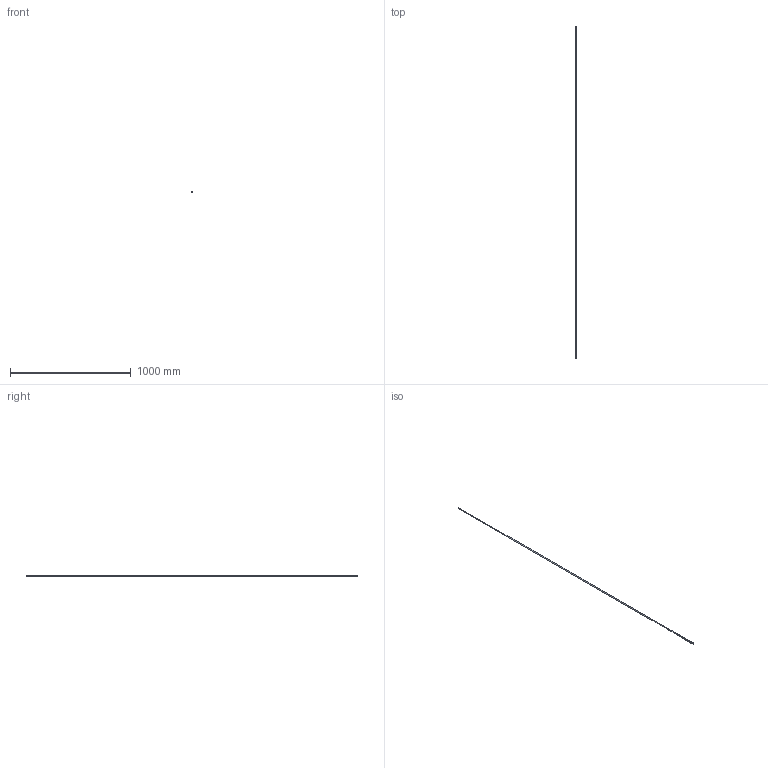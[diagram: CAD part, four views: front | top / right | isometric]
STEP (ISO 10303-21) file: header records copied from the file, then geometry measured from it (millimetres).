
FILE_DESCRIPTION (( 'STEP AP203' ), '1' );
FILE_NAME ('CAYLAR NMR Probe - Model RC.STEP', '2021-08-10T13:47:17', ( '' ), ( '' ), 'SwSTEP 2.0', 'SolidWorks 2016', '' );
FILE_SCHEMA (( 'CONFIG_CONTROL_DESIGN' ));
Length unit declared in the file: millimetre
Products named in the file (1): CAYLAR NMR Probe - Model RC
Bounding box: 9 x 2752.5 x 7.64 mm (x, y, z)
Volume: 127053.2 mm3; surface area: 67225.3 mm2
Topology: 1 solids, 1 shells, 78 faces, 221 edges, 147 vertices
Faces by surface type: plane 42, cylinder 14, bspline 9, cone 9, torus 4
Full cylindrical faces by diameter (mm): 2.5 x1, 7.644 x1
Entity records: 3415 total; most frequent: CARTESIAN_POINT 1337, ORIENTED_EDGE 432, DIRECTION 408, EDGE_CURVE 216, VERTEX_POINT 146, AXIS2_PLACEMENT_3D 145, LINE 118, VECTOR 118
